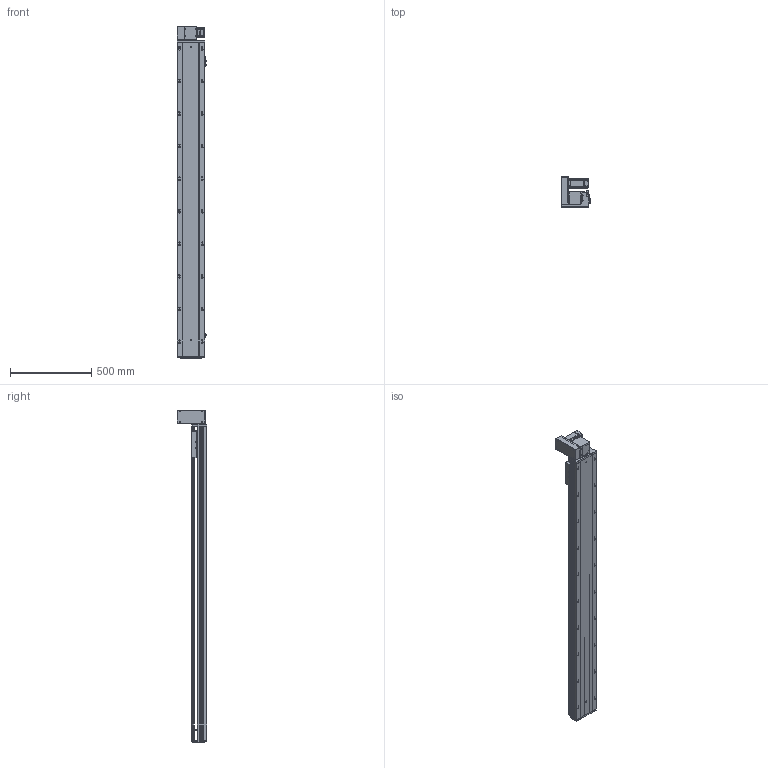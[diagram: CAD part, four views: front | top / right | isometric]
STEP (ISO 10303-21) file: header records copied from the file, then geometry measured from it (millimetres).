
FILE_DESCRIPTION (( 'STEP AP203' ), '1' );
FILE_NAME ('RY170-T-300-UL-P400W.SLDASM_1650.step', '2021-03-02T02:13:48', ( '盈信电脑' ), ( '东莞市道滘镇水果街19号' ), 'SwSTEP 2.0', 'SolidWorks 2012', '' );
FILE_SCHEMA (( 'CONFIG_CONTROL_DESIGN' ));
Products named in the file (18): RY170-T-300-UL-P400W.SLDASM_1650; RY170同步轮电机安装板(400W); 15; RY170-T蹟翐M4; RY170肮祭謫萇儂欶; RY120-T主同步轮轴承压盖; 滅袉蝶18-10; RY170-T肮祭謫裔啣; RY170-T肮祭湍揤踡輸1; RY170-T肮祭湍揤踡輸2; RY170翋肮祭謫釱; RY170肮祭謫ヶ裔啣; RY170外置感应片(200共用）; RY170綴裔啣; 覜茼ん672; RY170-T-300肮祭謫倰第裔啣-DL_1650; RY170肮祭湍臏賑輸; RY170-T-300肮祭謫倰第菁釱-DL_1650
Assembly tree (20 placements, depth 2):
  RY170-T-300-UL-P400W.SLDASM_1650
    RY170-T-300肮祭謫倰第菁釱-DL_1650
    RY170肮祭湍臏賑輸
    RY170-T-300肮祭謫倰第裔啣-DL_1650
    RY170綴裔啣
    覜茼ん672  x3
    RY170外置感应片(200共用）
    RY170肮祭謫ヶ裔啣
    RY170翋肮祭謫釱
    RY170-T肮祭湍揤踡輸1
    RY170-T肮祭湍揤踡輸2
    RY170-T肮祭謫裔啣
    滅袉蝶18-10  x2
    RY120-T主同步轮轴承压盖
    RY170肮祭謫萇儂欶
    RY170同步轮电机安装板(400W)
    RY170-T蹟翐M4
    15
Bounding box: 183.7 x 184 x 2038 mm (x, y, z)
Volume: 9590415.7 mm3; surface area: 3281871.9 mm2
Topology: 20 solids, 20 shells, 2737 faces, 7670 edges, 4885 vertices
Faces by surface type: cylinder 1272, plane 1151, cone 284, bspline 30
Entity records: 87832 total; most frequent: CARTESIAN_POINT 20015, ORIENTED_EDGE 13888, DIRECTION 13600, EDGE_CURVE 6944, AXIS2_PLACEMENT_3D 4812, VERTEX_POINT 4553, VECTOR 3976, LINE 3976
